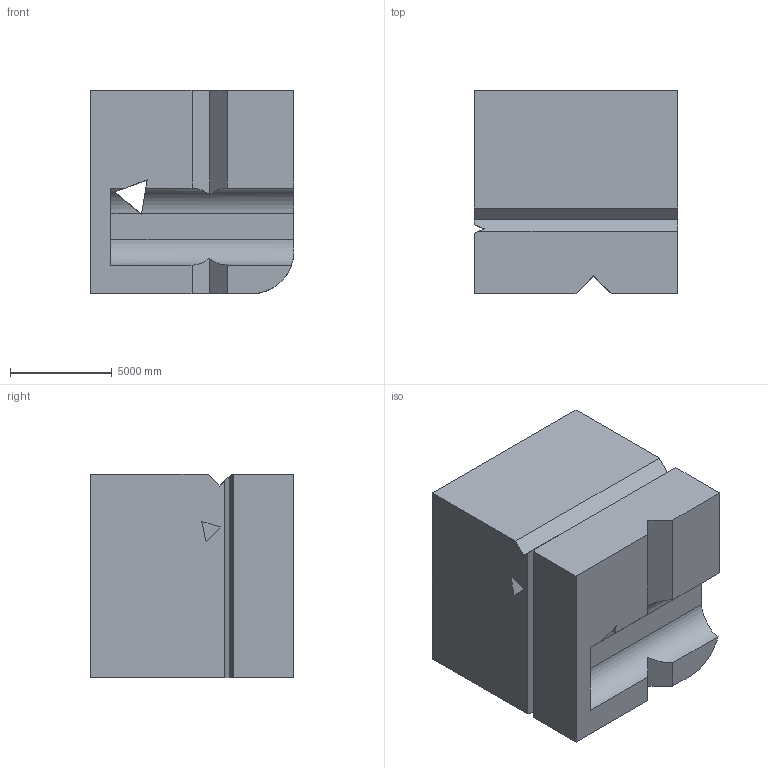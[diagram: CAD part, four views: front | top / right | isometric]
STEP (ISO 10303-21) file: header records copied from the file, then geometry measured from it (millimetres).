
FILE_DESCRIPTION (( 'STEP AP203' ), '1' );
FILE_NAME ('63.STEP', '2022-09-01T14:13:02', ( 'user' ), ( '' ), 'SwSTEP 2.0', 'SolidWorks 2021', '' );
FILE_SCHEMA (( 'CONFIG_CONTROL_DESIGN' ));
Length unit declared in the file: centimetre
Products named in the file (1): 63
Bounding box: 10000 x 10000 x 10000 mm (x, y, z)
Volume: 930387525588.5 mm3; surface area: 679583919.3 mm2
Topology: 1 solids, 1 shells, 31 faces, 87 edges, 58 vertices
Faces by surface type: plane 27, cylinder 4
Entity records: 1115 total; most frequent: CARTESIAN_POINT 247, ORIENTED_EDGE 174, DIRECTION 149, EDGE_CURVE 87, LINE 73, VECTOR 73, VERTEX_POINT 58, AXIS2_PLACEMENT_3D 38
